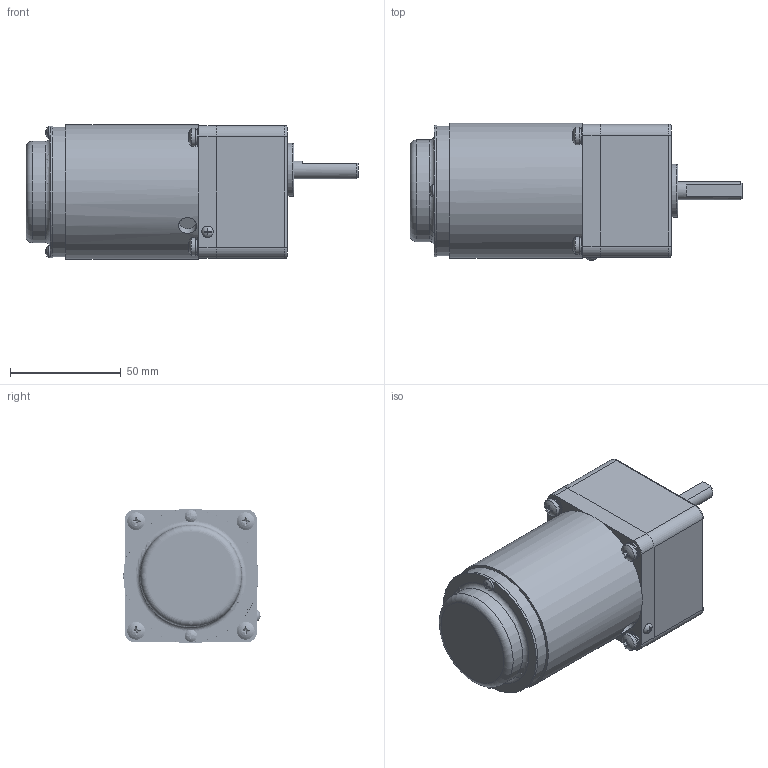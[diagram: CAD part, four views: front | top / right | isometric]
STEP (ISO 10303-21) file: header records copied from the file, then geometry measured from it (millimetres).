
FILE_DESCRIPTION(/* description */ (''),/* implementation_level */ '2;1');
FILE_NAME(/* name */ '60矮箱L-6W调速.stp',/* time_stamp */ '2022-10-31T08:14:54+08:00',/* author */ (''),/* organization */ (''),/* preprocessor_version */ 'ST-DEVELOPER v16.7',/* originating_system */ 'SIEMENS PLM Software NX 1899',/* authorisation */ '');
FILE_SCHEMA (('AP203_CONFIGURATION_CONTROLLED_3D_DESIGN_OF_MECHANICAL_PARTS_AND_ASSEMBLIES_MIM_LF { 1 0 10303 403 2 1 2}'));
Products named in the file (1): yf186188FEB6lbwf
Bounding box: 150 x 61.99 x 61 mm (x, y, z)
Volume: 357623.6 mm3; surface area: 45983.8 mm2
Topology: 16 solids, 18 shells, 321 faces, 776 edges, 509 vertices
Faces by surface type: plane 139, bspline 92, cylinder 67, torus 12, sphere 6, cone 5
Full cylindrical faces by diameter (mm): 3 x1, 3.838 x4, 4 x4, 4.3 x4, 5.6 x2, 6 x5, 8 x9, 8.2 x1, 24 x1, 30 x1, 46 x1, 52.6 x1, 57 x2, 58.5 x1, 59.5 x1, 61 x1
Entity records: 61356 total; most frequent: CARTESIAN_POINT 54563, ORIENTED_EDGE 1396, DIRECTION 1052, EDGE_CURVE 698, VERTEX_POINT 491, AXIS2_PLACEMENT_3D 434, EDGE_LOOP 421, ADVANCED_FACE 321
